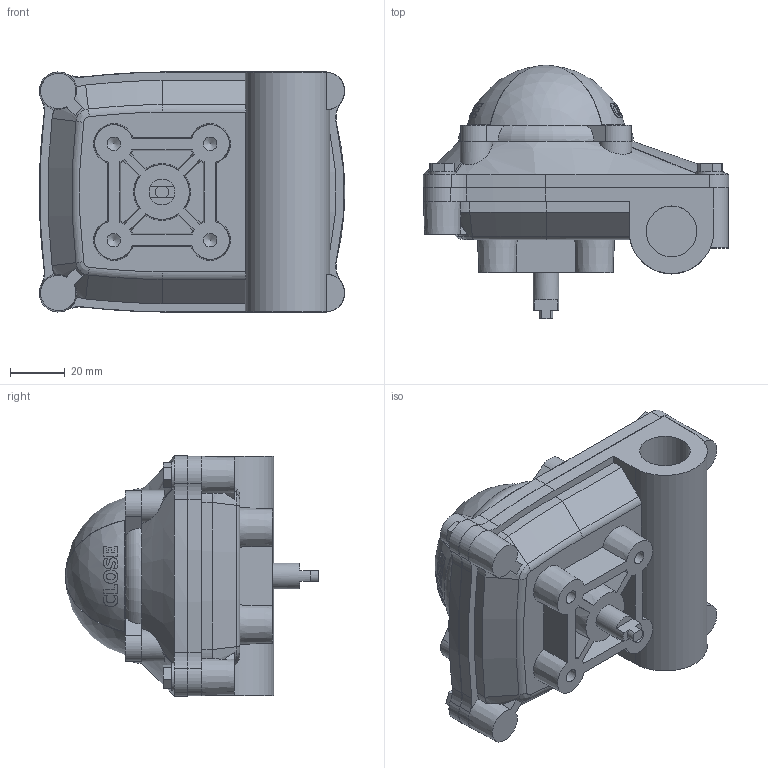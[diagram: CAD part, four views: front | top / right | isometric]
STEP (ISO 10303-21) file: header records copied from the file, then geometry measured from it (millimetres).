
FILE_DESCRIPTION(/* description */ ('Eriks item no: 12937973'),/* implementation_level */ '2;1');
FILE_NAME(/* name */ 'L:\DATA\ENG\Inventor\Econ 3D modellen\switchbox\HKC\ECON 79651_APL-210N\79651-2xNBB2-V3-E2-IP67.stp',/* time_stamp */ '2024-01-17T21:40:46+01:00',/* author */ ('roger.thijssen'),/* organization */ (''),/* preprocessor_version */ 'ST-DEVELOPER v18',/* originating_system */ 'Autodesk Inventor 2020',/* authorisation */ '');
FILE_SCHEMA (('CONFIG_CONTROL_DESIGN'));
Length unit declared in the file: millimetre
Products named in the file (1): Switchbox, 79651-2xNBB2-V3-E2-IP67
Bounding box: 112 x 93 x 88 mm (x, y, z)
Volume: 366798.4 mm3; surface area: 42470 mm2
Topology: 1 solids, 1 shells, 449 faces, 1187 edges, 775 vertices
Faces by surface type: plane 232, bspline 100, cylinder 64, cone 30, sphere 16, torus 7
Full cylindrical faces by diameter (mm): 4.917 x4, 8 x4, 9.5 x1, 10 x4, 18.631 x2
Entity records: 17285 total; most frequent: CARTESIAN_POINT 6407, ORIENTED_EDGE 2366, DIRECTION 1978, EDGE_CURVE 1183, VERTEX_POINT 775, AXIS2_PLACEMENT_3D 706, LINE 566, VECTOR 566
